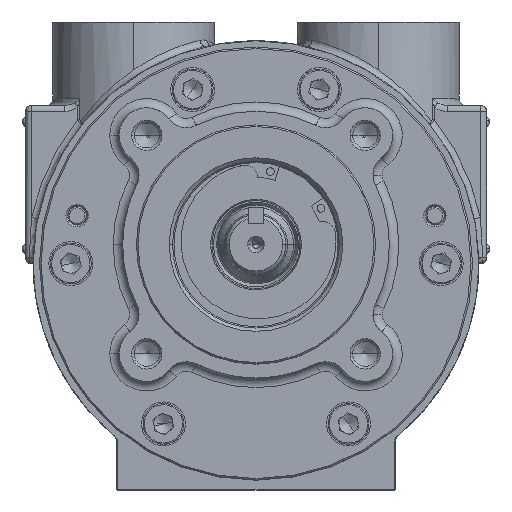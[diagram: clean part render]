
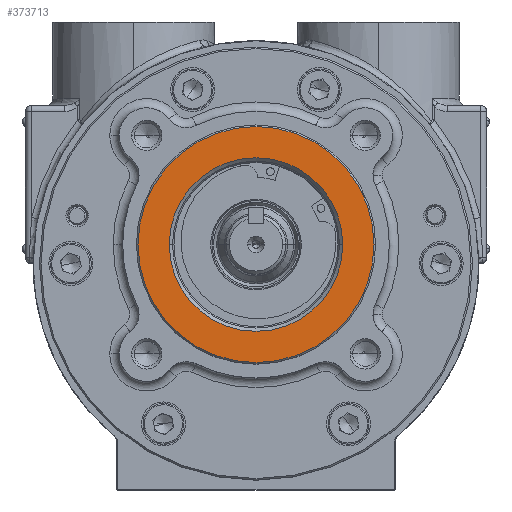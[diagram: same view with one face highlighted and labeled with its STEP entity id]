
A CAD part, top view. The second image highlights one B-rep face of the part: STEP entity #373713.
In plain terms, the highlighted planar face has unit normal (0, 0, 1).
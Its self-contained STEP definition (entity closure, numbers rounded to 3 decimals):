
#1100 = CARTESIAN_POINT ( 'NONE',  ( -27.65, 6., 77.95 ) ) ;
#2614 = CIRCLE ( 'NONE', #233099, 37.6 ) ;
#15476 = DIRECTION ( 'NONE',  ( -1., 0., 0. ) ) ;
#18345 = EDGE_CURVE ( 'NONE', #232308, #37016, #2614, .T. ) ;
#19667 = DIRECTION ( 'NONE',  ( 0., 0., 1. ) ) ;
#27579 = EDGE_CURVE ( 'NONE', #224160, #395178, #204988, .T. ) ;
#37016 = VERTEX_POINT ( 'NONE', #348206 ) ;
#44693 = EDGE_CURVE ( 'NONE', #395178, #224160, #209794, .T. ) ;
#48562 = CIRCLE ( 'NONE', #179299, 37.6 ) ;
#60127 = DIRECTION ( 'NONE',  ( 0., 0., 1. ) ) ;
#61358 = FACE_BOUND ( 'NONE', #215442, .T. ) ;
#76509 = DIRECTION ( 'NONE',  ( 0., 0., -1. ) ) ;
#83040 = ORIENTED_EDGE ( 'NONE', *, *, #18345, .T. ) ;
#92408 = CARTESIAN_POINT ( 'NONE',  ( 0., 6., 77.95 ) ) ;
#108136 = EDGE_CURVE ( 'NONE', #37016, #232308, #48562, .T. ) ;
#108765 = DIRECTION ( 'NONE',  ( -1., 0., 0. ) ) ;
#113255 = DIRECTION ( 'NONE',  ( 0., 0., 1. ) ) ;
#124212 = ORIENTED_EDGE ( 'NONE', *, *, #27579, .T. ) ;
#124406 = EDGE_LOOP ( 'NONE', ( #166884, #83040 ) ) ;
#145378 = PLANE ( 'NONE',  #309158 ) ;
#156790 = DIRECTION ( 'NONE',  ( 0., 0., -1. ) ) ;
#159527 = DIRECTION ( 'NONE',  ( -1., 0., 0. ) ) ;
#166884 = ORIENTED_EDGE ( 'NONE', *, *, #108136, .T. ) ;
#170294 = CARTESIAN_POINT ( 'NONE',  ( 0., 6., 77.95 ) ) ;
#176198 = CARTESIAN_POINT ( 'NONE',  ( 0., -20.15, 77.95 ) ) ;
#177007 = CARTESIAN_POINT ( 'NONE',  ( -37.6, 6., 77.95 ) ) ;
#179299 = AXIS2_PLACEMENT_3D ( 'NONE', #211573, #19667, #15476 ) ;
#204988 = CIRCLE ( 'NONE', #391541, 27.65 ) ;
#209794 = CIRCLE ( 'NONE', #226627, 27.65 ) ;
#211573 = CARTESIAN_POINT ( 'NONE',  ( 0., 6., 77.95 ) ) ;
#212055 = FACE_OUTER_BOUND ( 'NONE', #124406, .T. ) ;
#215442 = EDGE_LOOP ( 'NONE', ( #276064, #124212 ) ) ;
#219871 = DIRECTION ( 'NONE',  ( -1., 0., 0. ) ) ;
#224160 = VERTEX_POINT ( 'NONE', #231318 ) ;
#226627 = AXIS2_PLACEMENT_3D ( 'NONE', #170294, #76509, #108765 ) ;
#231318 = CARTESIAN_POINT ( 'NONE',  ( 27.65, 6., 77.95 ) ) ;
#232308 = VERTEX_POINT ( 'NONE', #177007 ) ;
#233099 = AXIS2_PLACEMENT_3D ( 'NONE', #92408, #60127, #219871 ) ;
#270045 = DIRECTION ( 'NONE',  ( -1., 0., 0. ) ) ;
#276064 = ORIENTED_EDGE ( 'NONE', *, *, #44693, .T. ) ;
#309158 = AXIS2_PLACEMENT_3D ( 'NONE', #176198, #113255, #270045 ) ;
#348206 = CARTESIAN_POINT ( 'NONE',  ( 37.6, 6., 77.95 ) ) ;
#351525 = CARTESIAN_POINT ( 'NONE',  ( 0., 6., 77.95 ) ) ;
#373713 = ADVANCED_FACE ( 'NONE', ( #212055, #61358 ), #145378, .T. ) ;
#391541 = AXIS2_PLACEMENT_3D ( 'NONE', #351525, #156790, #159527 ) ;
#395178 = VERTEX_POINT ( 'NONE', #1100 ) ;
